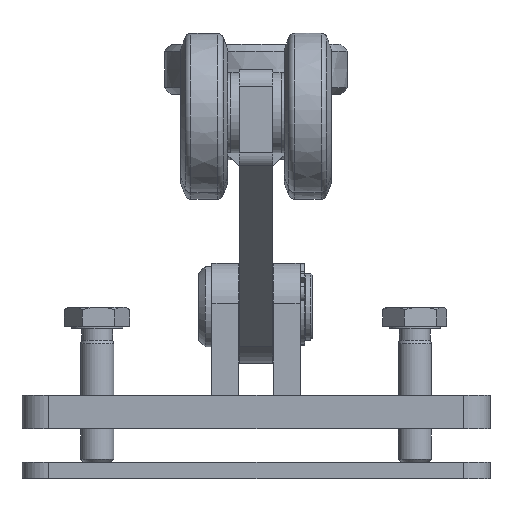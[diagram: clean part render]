
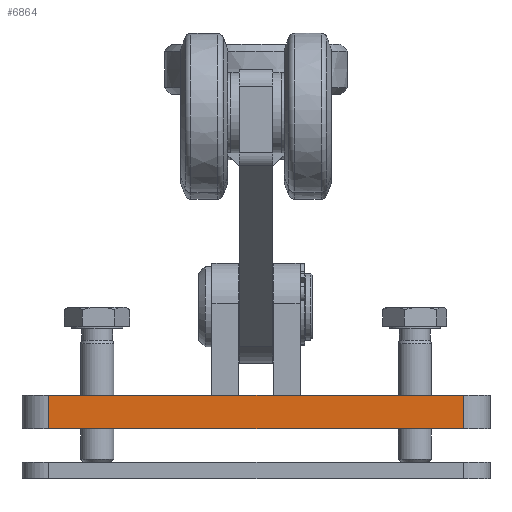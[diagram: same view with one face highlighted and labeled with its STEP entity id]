
A CAD part, left-side view. The second image highlights one B-rep face of the part: STEP entity #6864.
In plain terms, the highlighted planar face has unit normal (-1, 0, 0).
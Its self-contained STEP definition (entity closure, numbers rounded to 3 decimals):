
#1133=FACE_OUTER_BOUND('',#1575,.T.);
#1575=EDGE_LOOP('',(#5659,#5660,#5661,#5662));
#2295=LINE('',#10752,#2885);
#2367=LINE('',#10940,#2957);
#2368=LINE('',#10943,#2958);
#2369=LINE('',#10944,#2959);
#2885=VECTOR('',#8676,124.);
#2957=VECTOR('',#8856,10.);
#2958=VECTOR('',#8859,124.);
#2959=VECTOR('',#8860,10.);
#3370=VERTEX_POINT('',#10749);
#3371=VERTEX_POINT('',#10751);
#3433=VERTEX_POINT('',#10938);
#3434=VERTEX_POINT('',#10942);
#4154=EDGE_CURVE('',#3370,#3371,#2295,.T.);
#4246=EDGE_CURVE('',#3370,#3433,#2367,.T.);
#4247=EDGE_CURVE('',#3433,#3434,#2368,.T.);
#4248=EDGE_CURVE('',#3371,#3434,#2369,.T.);
#5659=ORIENTED_EDGE('',*,*,#4247,.T.);
#5660=ORIENTED_EDGE('',*,*,#4248,.F.);
#5661=ORIENTED_EDGE('',*,*,#4154,.F.);
#5662=ORIENTED_EDGE('',*,*,#4246,.T.);
#6565=PLANE('',#7368);
#6864=ADVANCED_FACE('',(#1133),#6565,.T.);
#7368=AXIS2_PLACEMENT_3D('',#10941,#8857,#8858);
#8676=DIRECTION('',(0.,-1.,0.));
#8856=DIRECTION('',(0.,0.,-1.));
#8857=DIRECTION('center_axis',(-1.,0.,0.));
#8858=DIRECTION('ref_axis',(0.,0.,1.));
#8859=DIRECTION('',(0.,-1.,0.));
#8860=DIRECTION('',(0.,0.,-1.));
#10749=CARTESIAN_POINT('',(-150.,62.,0.));
#10751=CARTESIAN_POINT('',(-150.,-62.,0.));
#10752=CARTESIAN_POINT('',(-150.,62.,0.));
#10938=CARTESIAN_POINT('',(-150.,62.,-10.));
#10940=CARTESIAN_POINT('',(-150.,62.,0.));
#10941=CARTESIAN_POINT('Origin',(-150.,62.,0.));
#10942=CARTESIAN_POINT('',(-150.,-62.,-10.));
#10943=CARTESIAN_POINT('',(-150.,62.,-10.));
#10944=CARTESIAN_POINT('',(-150.,-62.,0.));
